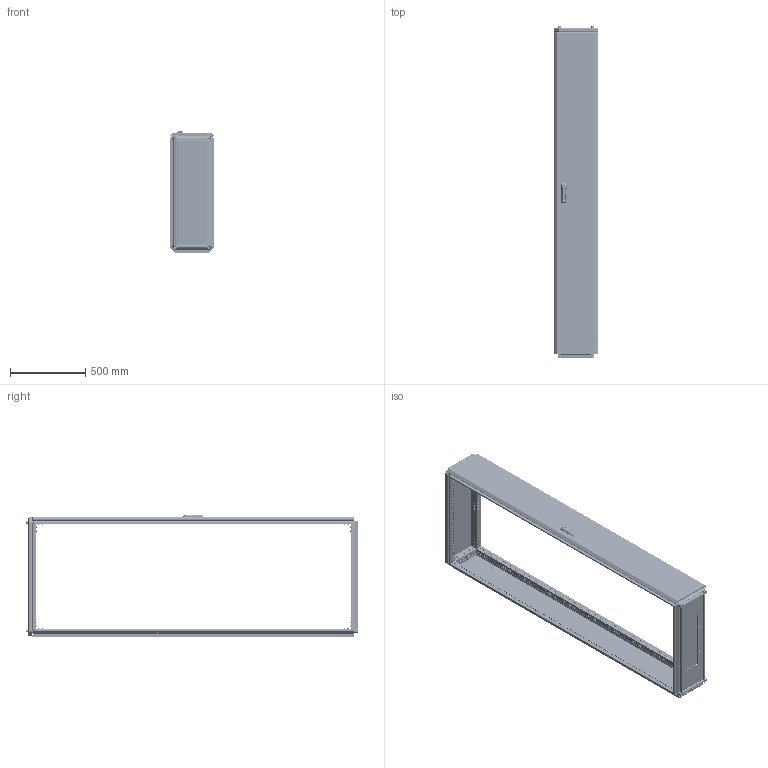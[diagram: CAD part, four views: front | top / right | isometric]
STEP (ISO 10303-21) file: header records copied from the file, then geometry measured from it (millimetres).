
FILE_DESCRIPTION (( 'STEP AP203' ), '1' );
FILE_NAME ('MA1.000.030822.10.00 AleSta2236 Øêàô AleSta 300õ800õ2200.STEP', '2024-08-23T08:39:03', ( '' ), ( '' ), 'SwSTEP 2.0', 'SolidWorks 2021', '' );
FILE_SCHEMA (( 'CONFIG_CONTROL_DESIGN' ));
Length unit declared in the file: millimetre
Products named in the file (50): MA1.101.060620.10.01 Ïîëîòíî êðûøè 600õ600_300x800; MA1.200.060620.31.02 Ðåéêà íà äâåðü âåðòèêàëüíàÿ Â = 2000_‚ = 2200; òÿãà_lg001-2.STEP_‚=2200; MA1.200.060620.11.00 Ïàíåëü çàäíÿÿ, äëÿ øêàôîâ AleSta, 2000x600_2200å300; Âèíò ðåçüáîâûäàâëèâàþùèé Ì6õ12 DIN 7500E_Œ6å10; MA1.200.060620.31.01 Ïîëîòíî äâåðè ñïëîøíîé 2000õ600_2200å300; äåðæàòåëü_êðóãëîé_òÿãèRG002-RG1010-2-i-RG1010-3-.stp; Øïèëüêà Ì6õ12_˜¯¨«ìª  Œ6å20; Âèíò_ðåçüáîâûäàâëèâàþùèé_Ì5õ12_DIN 7500E_Œ5å12; Ïåòëÿ íà äâåðü ï-îáðàçíàÿ; MA1.101.060620.10.00 Êðûøà 600x600_300å800; MA1.100.060620.00.01 Ñîåäèíèòåëü óãëîâîé_00; Ïðîáêà ïëàñòèêîâàÿ óíèâåðñàëüíàÿ ïîä îòâåðñòèå 4,5 ìì, ñåðèÿ ST, öâåò áåñöâåòíûé – ST4,5; Óïëîòíèòåëü ïàíåëè íèæíåé_   ‚=2200; Ãàéêà ñàìîêîíòðÿùàÿñÿ ñ íåéëîíîâîé âñòàâêîé Ì6 DIN 985, êëàññ ïðî÷íîñòè 8, îöèíêîâàííàÿ ñòàëü_Œ6; MA1.101.060620.00.02 Ïðîôèëü ïîïåðå÷íûé ñâàðíîé_02 L=698 (˜=800) ; Óïëîòíèòåëü ïàíåëè íèæíåé_300å800; MA1.200.060620.31.00 Äâåðü ñïëîøíàÿ äëÿ øêàôîâ ALESTA ÂõØ 2000õ600_2200å300; Íàâåñêà íà êîðïóñ ïîä êëåïêó; Âèíò ñàìîíàðåçàþùèé ñ ïîòàéíîé ãîëîâêîé Ì5x14 DIN 7500 M TORX, êëàññ ïðî÷íîñòè 8.8, îöèíêîâàííàÿ ñòàëü_Œ5å12; MA1.200.060620.10.00 AleSta-PR206  Ïàíåëü çàäíÿÿ, äëÿ øêàôîâ ALESTA, 2000 x 600_2200å300; MA1.101.060620.20.01 Ïîëîòíî íèæíåé ïàíåëè 600õ600_300å800; MA1.102.060620.00.00 AleSta-VG2000 Ñòîéêè âåðòèêàëüíûå, Â=2000ìì  (4øò)_ 300å800; MA1.200.060620.31.05 Óãëîâîé óïîð äâåðíîé òÿãè; ﾘ琺矜 01.019 ﾃﾎﾑﾒ11371-78_12; Áîëò øåñòèãðàííûé Ì5õ12 DIN 933, êëàññ ïðî÷íîñòè 8.8, îöèíêîâàííàÿ ñòàëü; Îñü ïåòëè 4õ52_‚¨­â A.M4x0,5x40 ƒŽ‘’ 11644-75; 7380-2 ISO Âèíòû ñ ïîëóêðóãëîé ãîëîâêîé ñ ôëàíöåì ñ âíóòðåííèì øåñòèãðàííèêîì Ì4õ10; Ãàéêà ñàìîêîíòðÿùàÿñÿ ñ íåéëîíîâîé âñòàâêîé Ì6 DIN 985, êëàññ ïðî÷íîñòè 8, îöèíêîâàííàÿ ñòàëü_Œ5; 諘蜱齁罻 022 瀁錒瀔隮; MA1.101.060620.20.00 Íèæíÿÿ ïàíåëü 600õ600_300å800; MA1.000.030822.10.00 AleSta2236 Øêàô AleSta 300õ800õ2200; MA1.101.060620.20.02 Çàêðûòèå íèæíåé ïàíåëè 600õ600_300x800; ﾘ琺矜 65ﾃ 019 ﾃﾎﾑﾒ 6402-70_12; Øïèëüêà Ì6õ12_˜¯¨«ìª  Œ6å16; êðåïëåíèå_êðóãëîé_òÿãè_RG1020-1.stp; MA1.102.060620.00.01 Ïðîôèëü âåðòèêàëüíûé ñâàðíîé_05 L=2098 (‚=2200); MA1.200.060620.11.01 Ïîëîòíî çàäíåé ïàíåëè 2000õ600_2200å300; Øïèëüêà Ì6õ12_˜¯¨«ìª  Œ6å12; MA1.101.060620.00.02 Ïðîôèëü ïîïåðå÷íûé ñâàðíîé_03 L=198 (˜=300)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
Assembly tree (329 placements, depth 4):
  Ïðîáêà ïëàñòèêîâàÿ óíèâåðñàëüíàÿ ïîä îòâåðñòèå 4,5 ìì, ñåðèÿ ST, öâåò áåñöâåòíûé – ST4,5
  MA1.000.030822.10.00 AleSta2236 Øêàô AleSta 300õ800õ2200
    MA1.101.060620.00.00 AleSta-RB66 Êîìïëåêò êðûøà è îñíîâàíèå_ 300x800
      MA1.101.060620.00.02 Ïðîôèëü ïîïåðå÷íûé ñâàðíîé_02 L=698 (˜=800)   x4
      MA1.101.060620.00.02 Ïðîôèëü ïîïåðå÷íûé ñâàðíîé_03 L=198 (˜=300)  x4
      MA1.101.060620.10.00 Êðûøà 600x600_300å800
        MA1.101.060620.10.01 Ïîëîòíî êðûøè 600õ600_300x800
        Øïèëüêà Ì6õ12_˜¯¨«ìª  Œ6å12  x4
        Óïëîòíèòåëü ïàíåëè íèæíåé_300å800
      MA1.101.060620.20.00 Íèæíÿÿ ïàíåëü 600õ600_300å800
        MA1.101.060620.20.01 Ïîëîòíî íèæíåé ïàíåëè 600õ600_300å800
        ﾇﾀﾊﾋﾅﾏﾊﾀ ﾃﾀﾅﾗﾍﾀﾟ ﾘﾅﾑﾒﾈﾃﾐﾀﾍﾍﾀﾟ ﾑ ﾓﾌﾅﾍﾜﾘﾅﾍﾍﾛﾌ ﾁﾎﾐﾒﾎﾌ M4 X 11 (0.5-2.5 ﾌﾌ) HEX U-S ﾖﾈﾍﾊ  x4
        MA1.101.060620.20.02 Çàêðûòèå íèæíåé ïàíåëè 600õ600_300x800  x2
        7380-2 ISO Âèíòû ñ ïîëóêðóãëîé ãîëîâêîé ñ ôëàíöåì ñ âíóòðåííèì øåñòèãðàííèêîì Ì4õ10  x4
      Âèíò_ðåçüáîâûäàâëèâàþùèé_Ì5õ12_DIN 7500E_Œ5å12  x8
      MA1.100.060620.00.01 Ñîåäèíèòåëü óãëîâîé_00  x8
      Âèíò ñ âí. øåñòèãðàííèêîì M12 DIN912_•30  x4
      Âèíò ðåçüáîâûäàâëèâàþùèé Ì6õ12 DIN 7500E_Œ6å10  x96
      ﾘ琺矜 01.019 ﾃﾎﾑﾒ11371-78_12  x4
      ﾘ琺矜 65ﾃ 019 ﾃﾎﾑﾒ 6402-70_12  x4
      Øàéáà ñòîïîðíàÿ ñ íàðóæíûìè çóáöàìè SCHNORR, òèï VS öèíêîâûå õëîïüÿ Ì6 O6,4 ART 88121_Œ6  x80
    MA1.102.060620.00.00 AleSta-VG2000 Ñòîéêè âåðòèêàëüíûå, Â=2000ìì  (4øò)_ 300å800
      MA1.102.060620.00.01 Ïðîôèëü âåðòèêàëüíûé ñâàðíîé_05 L=2098 (‚=2200)  x4
    MA1.200.060620.10.00 AleSta-PR206  Ïàíåëü çàäíÿÿ, äëÿ øêàôîâ ALESTA, 2000 x 600_2200å300
      MA1.200.060620.11.00 Ïàíåëü çàäíÿÿ, äëÿ øêàôîâ AleSta, 2000x600_2200å300
        MA1.200.060620.11.01 Ïîëîòíî çàäíåé ïàíåëè 2000õ600_2200å300
        Óïëîòíèòåëü ïàíåëè íèæíåé_   ‚=2200
        Øïèëüêà Ì6õ12_˜¯¨«ìª  Œ6å12  x4
      Âèíò ñàìîíàðåçàþùèé ñ ïîòàéíîé ãîëîâêîé Ì5x14 DIN 7500 M TORX, êëàññ ïðî÷íîñòè 8.8, îöèíêîâàííàÿ ñòàëü_Œ5å14  x8
    MA1.200.060620.30.00 AleSta-D20M600 Äâåðü ñïëîøíàÿ äëÿ øêàôîâ ALESTA ÂõØ 2000õ600_2200å300
      MA1.200.060620.31.00 Äâåðü ñïëîøíàÿ äëÿ øêàôîâ ALESTA ÂõØ 2000õ600_2200å300
        MA1.200.060620.31.01 Ïîëîòíî äâåðè ñïëîøíîé 2000õ600_2200å300
        Óïëîòíèòåëü ïàíåëè íèæíåé_   ‚=2200
        Øïèëüêà Ì6õ12_˜¯¨«ìª  Œ6å20  x12
        Øïèëüêà Ì6õ12_˜¯¨«ìª  Œ6å16  x4
        Ïåòëÿ íà äâåðü ï-îáðàçíàÿ  x4
      MA1.200.060620.31.03 Ðåéêà íà äâåðü ãîðèçîíòàëüíàÿ Ø = 600_˜=300  x2
      諘蜱齁罻 022 瀁錒瀔隮  x4
      MA1.200.060620.31.02 Ðåéêà íà äâåðü âåðòèêàëüíàÿ Â = 2000_‚ = 2200  x2
      äåðæàòåëü_êðóãëîé_òÿãèRG002-RG1010-2-i-RG1010-3-.stp  x2
      òÿãà_lg001-2.STEP_‚=2200  x2
      êðåïëåíèå_êðóãëîé_òÿãè_RG1020-1.stp  x2
      MS463-2-3(1)
      Ãàéêà ñàìîêîíòðÿùàÿñÿ ñ íåéëîíîâîé âñòàâêîé Ì6 DIN 985, êëàññ ïðî÷íîñòè 8, îöèíêîâàííàÿ ñòàëü_Œ6  x12
      Ãàéêà ñàìîêîíòðÿùàÿñÿ ñ íåéëîíîâîé âñòàâêîé Ì6 DIN 985, êëàññ ïðî÷íîñòè 8, îöèíêîâàííàÿ ñòàëü_Œ5  x2
      Áîëò øåñòèãðàííûé Ì5õ12 DIN 933, êëàññ ïðî÷íîñòè 8.8, îöèíêîâàííàÿ ñòàëü  x2
      MA1.200.060620.31.04 ðèãåëü çàìêà äâåðè
      MA1.200.060620.31.05 Óãëîâîé óïîð äâåðíîé òÿãè  x2
      Âèíò_ðåçüáîâûäàâëèâàþùèé_Ì5õ12_DIN 7500E_00  x2
      Íàâåñêà íà êîðïóñ ïîä êëåïêó  x4
      Îñü ïåòëè 4õ52_‚¨­â A.M4x0,5x40 ƒŽ‘’ 11644-75  x4
      Âèíò ñàìîíàðåçàþùèé ñ ïîòàéíîé ãîëîâêîé Ì5x14 DIN 7500 M TORX, êëàññ ïðî÷íîñòè 8.8, îöèíêîâàííàÿ ñòàëü_Œ5å12  x8
Bounding box: 292 x 2210.9 x 816.8 mm (x, y, z)
Volume: 7603685 mm3; surface area: 9091513.4 mm2
Topology: 356 solids, 370 shells, 23743 faces, 61438 edges, 38544 vertices
Faces by surface type: plane 14301, cylinder 6805, bspline 873, cone 837, torus 829, sphere 98
Entity records: 250704 total; most frequent: CARTESIAN_POINT 80221, ORIENTED_EDGE 32690, DIRECTION 32104, EDGE_CURVE 16362, AXIS2_PLACEMENT_3D 10980, VERTEX_POINT 10205, LINE 10144, VECTOR 10144
